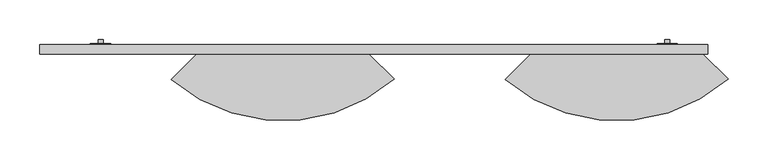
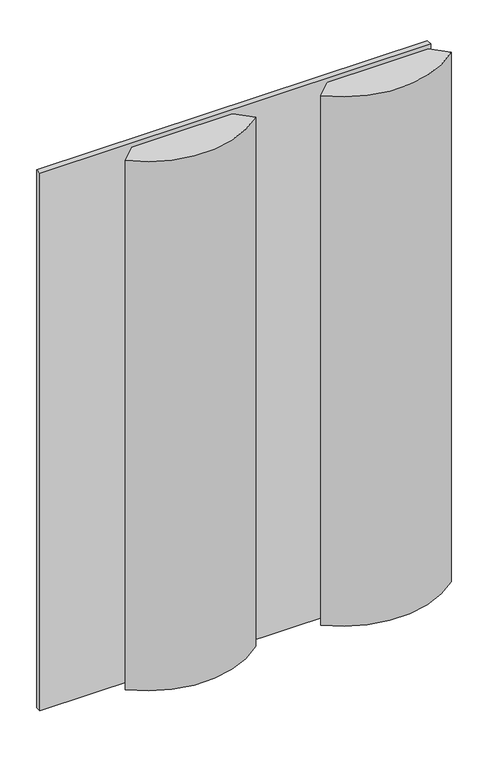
"""IFC4 building model written with IfcOpenShell, lengths in millimetres: proxy geometry, Arktura-SoundForm-Arc-RFA : Arktura-SoundForm-Arc-RFA."""

from ifc_helpers import new_model, si_unit, point, frame, frame_2d, origin, origin_with_axes, place, context, project, spatial, polyline, circle_curve, trimmed, segment, composite_curve, outline, extrude, source, transform, mapped, element, save


def generic_models_461dd92c(model_context):
    return source(origin(), model_context, "Body", "SweptSolid", [
        extrude(outline(polyline([(-152.4, -31.75), (-177.8, -31.75), (-177.8, -30.3215536), (-152.4, -30.3215536), (-152.4, -31.75)])), frame((0.0, 0.0, 1133.475), z_axis=(0.0, 0.0, 1.0), x_axis=(1.0, 0.0, 0.0)), (0.0, 0.0, 1.0), 25.4),
        extrude(outline(composite_curve([segment(trimmed(circle_curve(frame_2d((1146.175, -165.1)), 3.175), [point((1146.175, -168.275))], [point((1146.175, -161.925))], False, "CARTESIAN"), True, "CONTINUOUS"), segment(trimmed(circle_curve(frame_2d((1146.175, -165.1)), 3.175), [point((1146.175, -161.925))], [point((1146.175, -168.275))], False, "CARTESIAN"), True, "CONTINUOUS")], self_intersect=False)), frame((0.0, -30.3215536, 0.0), z_axis=(0.0, 1.0, 0.0), x_axis=(0.0, 0.0, 1.0)), (0.0, 0.0, 1.0), 4.9215536),
        extrude(outline(polyline([(558.8, -31.75), (533.4, -31.75), (533.4, -30.3215536), (558.8, -30.3215536), (558.8, -31.75)])), frame((0.0, 0.0, 1133.475), z_axis=(0.0, 0.0, 1.0), x_axis=(1.0, 0.0, 0.0)), (0.0, 0.0, 1.0), 25.4),
        extrude(outline(composite_curve([segment(trimmed(circle_curve(frame_2d((1146.175, 546.1)), 3.175), [point((1146.175, 542.925))], [point((1146.175, 549.275))], False, "CARTESIAN"), True, "CONTINUOUS"), segment(trimmed(circle_curve(frame_2d((1146.175, 546.1)), 3.175), [point((1146.175, 549.275))], [point((1146.175, 542.925))], False, "CARTESIAN"), True, "CONTINUOUS")], self_intersect=False)), frame((0.0, -30.3215536, 0.0), z_axis=(0.0, 1.0, 0.0), x_axis=(0.0, 0.0, 1.0)), (0.0, 0.0, 1.0), 4.9215536),
        extrude(outline(polyline([(558.8, -31.75), (533.4, -31.75), (533.4, -30.3215536), (558.8, -30.3215536), (558.8, -31.75)])), frame((0.0, 0.0, 60.325), z_axis=(0.0, 0.0, 1.0), x_axis=(1.0, 0.0, 0.0)), (0.0, 0.0, 1.0), 25.4),
        extrude(outline(composite_curve([segment(trimmed(circle_curve(frame_2d((73.025, 546.1)), 3.175), [point((73.025, 542.925))], [point((73.025, 549.275))], False, "CARTESIAN"), True, "CONTINUOUS"), segment(trimmed(circle_curve(frame_2d((73.025, 546.1)), 3.175), [point((73.025, 549.275))], [point((73.025, 542.925))], False, "CARTESIAN"), True, "CONTINUOUS")], self_intersect=False)), frame((0.0, -30.3215536, 0.0), z_axis=(0.0, 1.0, 0.0), x_axis=(0.0, 0.0, 1.0)), (0.0, 0.0, 1.0), 4.9215536),
        extrude(outline(polyline([(-152.4, -31.75), (-177.8, -31.75), (-177.8, -30.3215536), (-152.4, -30.3215536), (-152.4, -31.75)])), frame((0.0, 0.0, 60.325), z_axis=(0.0, 0.0, 1.0), x_axis=(1.0, 0.0, 0.0)), (0.0, 0.0, 1.0), 25.4),
        extrude(outline(composite_curve([segment(trimmed(circle_curve(frame_2d((73.025, -165.1)), 3.175), [point((73.025, -168.275))], [point((73.025, -161.925))], False, "CARTESIAN"), True, "CONTINUOUS"), segment(trimmed(circle_curve(frame_2d((73.025, -165.1)), 3.175), [point((73.025, -161.925))], [point((73.025, -168.275))], False, "CARTESIAN"), True, "CONTINUOUS")], self_intersect=False)), frame((0.0, -30.3215536, 0.0), z_axis=(0.0, 1.0, 0.0), x_axis=(0.0, 0.0, 1.0)), (0.0, 0.0, 1.0), 4.9215536),
        extrude(outline(polyline([(-241.3, -43.749976), (-241.3, -31.75), (596.9, -31.75), (596.9, -43.749976), (-241.3, -43.749976)])), origin_with_axes(), (0.0, 0.0, 1.0), 1219.2),
        extrude(outline(composite_curve([segment(polyline([(482.4682133, -43.7499999), (590.5500179, -43.7499999), (622.4852586, -75.1103039)]), True, "CONTINUOUS"), segment(trimmed(circle_curve(frame_2d((482.4682133, 85.7082914)), 213.2308457), [point((622.4852586, -75.1103039))], [point((342.9, -75.499982))], False, "CARTESIAN"), True, "CONTINUOUS"), segment(polyline([(342.9, -75.499982), (374.6499821, -43.7499999), (482.4682133, -43.7499999)]), True, "CONTINUOUS")], self_intersect=False)), frame((0.0, 0.0, 9.525), z_axis=(0.0, 0.0, 1.0), x_axis=(1.0, 0.0, 0.0)), (0.0, 0.0, 1.0), 1200.15),
        extrude(outline(composite_curve([segment(polyline([(63.3682133, -43.7499999), (171.4500179, -43.7499999), (203.3852586, -75.1103039)]), True, "CONTINUOUS"), segment(trimmed(circle_curve(frame_2d((63.3682133, 85.7082914)), 213.2308457), [point((203.3852586, -75.1103039))], [point((-76.2, -75.499982))], False, "CARTESIAN"), True, "CONTINUOUS"), segment(polyline([(-76.2, -75.499982), (-44.4500179, -43.7499999), (63.3682133, -43.7499999)]), True, "CONTINUOUS")], self_intersect=False)), frame((0.0, 0.0, 9.525), z_axis=(0.0, 0.0, 1.0), x_axis=(1.0, 0.0, 0.0)), (0.0, 0.0, 1.0), 1200.15),
    ])


if __name__ == "__main__":
    model = new_model("IFC4")
    model_context = context("Model", 3, world=origin())
    ifc_project = project(units=[si_unit("LENGTHUNIT", "METRE", prefix="MILLI")], contexts=[model_context])
    site = spatial("IfcSite", under=ifc_project)
    building = spatial("IfcBuilding", under=site)
    placement = place(None, origin())
    generic_models_shape = generic_models_461dd92c(model_context)
    element("IfcBuildingElementProxy", 1, Name="Arktura-SoundForm-Arc-RFA : Arktura-SoundForm-Arc-RFA", ObjectType="Arktura-SoundForm-Arc-RFA : Arktura-SoundForm-Arc-RFA", at=placement, inside=building, context=model_context, shape_type="MappedRepresentation", body=[
        mapped(generic_models_shape, transform((0.0, 0.0, 0.0), x_axis=(1.0, 0.0, 0.0), y_axis=(0.0, 1.0, 0.0), z_axis=(0.0, 0.0, 1.0))),
    ])
    save(model, "model.ifc")
